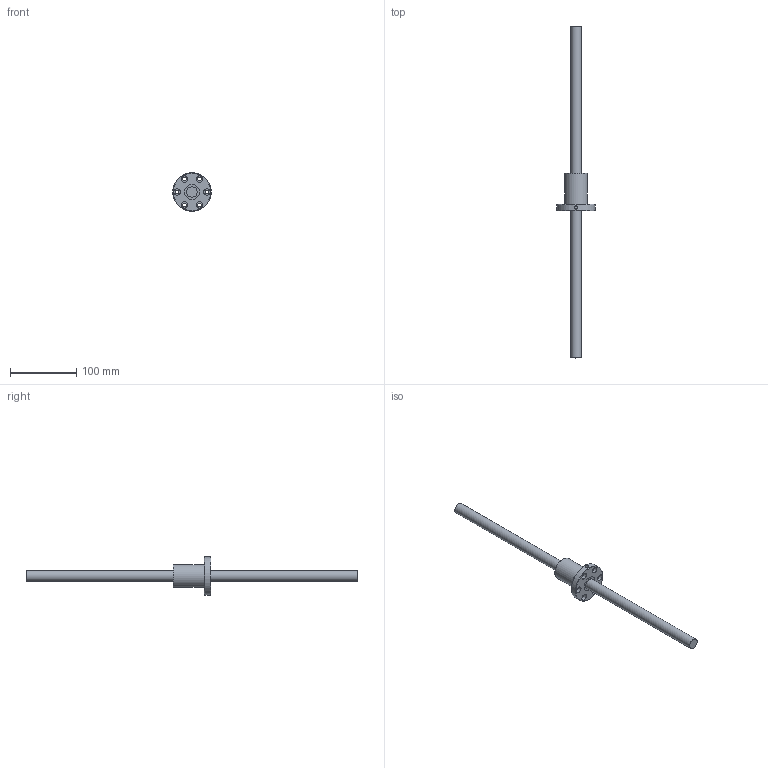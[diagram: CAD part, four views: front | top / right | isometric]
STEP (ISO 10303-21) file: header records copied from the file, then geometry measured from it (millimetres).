
FILE_DESCRIPTION(/* description */ (''),/* implementation_level */ '2;1');
FILE_NAME(/* name */ '1610.stp',/* time_stamp */ '2014-07-14T15:25:18+08:00',/* author */ (''),/* organization */ (''),/* preprocessor_version */ 'ST-DEVELOPER v11',/* originating_system */ 'SIEMENS UGS NX 6.0',/* authorisation */ '');
FILE_SCHEMA (('CONFIG_CONTROL_DESIGN'));
Length unit declared in the file: millimetre
Products named in the file (1): kcc27CCovcp
Bounding box: 58 x 500 x 58 mm (x, y, z)
Volume: 155040.6 mm3; surface area: 43102.2 mm2
Topology: 4 solids, 4 shells, 44 faces, 78 edges, 51 vertices
Faces by surface type: cylinder 23, plane 18, torus 3
Full cylindrical faces by diameter (mm): 5 x1, 5.5 x6, 9.5 x6, 16 x4, 23 x4, 34 x1, 58 x1
Entity records: 1104 total; most frequent: CARTESIAN_POINT 200, DIRECTION 186, EDGE_LOOP 98, ORIENTED_EDGE 98, FACE_BOUND 95, AXIS2_PLACEMENT_3D 93, VERTEX_POINT 49, EDGE_CURVE 49
